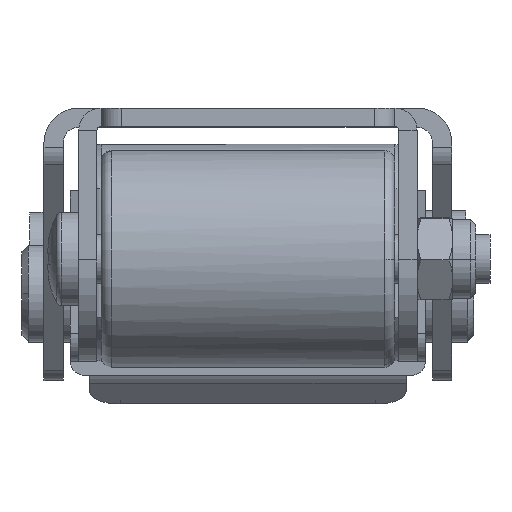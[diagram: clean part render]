
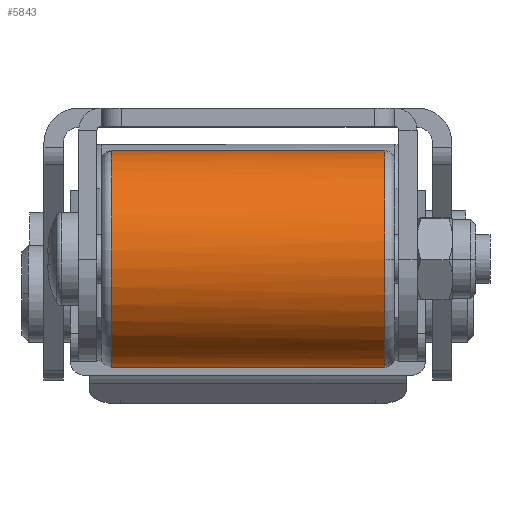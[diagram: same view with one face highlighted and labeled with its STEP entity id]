
A CAD part, left-side view. The second image highlights one B-rep face of the part: STEP entity #5843.
In plain terms, the highlighted cylindrical face has radius 10.704 mm (diameter 21.409 mm), a partial arc.
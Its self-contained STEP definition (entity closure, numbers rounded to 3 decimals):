
#62 = CARTESIAN_POINT ( 'NONE',  ( -1.901, 0.251, 22.135 ) ) ;
#229 = EDGE_CURVE ( 'NONE', #2815, #4397, #6040, .T. ) ;
#249 = CARTESIAN_POINT ( 'NONE',  ( 1.676, -13.243, 35.784 ) ) ;
#274 = DIRECTION ( 'NONE',  ( 0., 1., 0. ) ) ;
#301 = DIRECTION ( 'NONE',  ( 0., -1., 0. ) ) ;
#314 = CYLINDRICAL_SURFACE ( 'NONE', #4800, 10.704 ) ;
#373 = CIRCLE ( 'NONE', #5061, 10.704 ) ;
#439 = B_SPLINE_CURVE_WITH_KNOTS ( 'NONE', 3,
 ( #576, #1768, #4329, #7471 ),
 .UNSPECIFIED., .F., .F.,
 ( 4, 4 ),
 ( 0.002, 0.002 ),
 .UNSPECIFIED. ) ;
#478 = CARTESIAN_POINT ( 'NONE',  ( -1.974, -13.243, 39.915 ) ) ;
#576 = CARTESIAN_POINT ( 'NONE',  ( 1.676, 13.745, 35.784 ) ) ;
#588 = ORIENTED_EDGE ( 'NONE', *, *, #3832, .T. ) ;
#701 = EDGE_CURVE ( 'NONE', #2224, #2918, #4395, .T. ) ;
#858 = EDGE_CURVE ( 'NONE', #4235, #4397, #1805, .T. ) ;
#894 = CIRCLE ( 'NONE', #3620, 10.704 ) ;
#937 = DIRECTION ( 'NONE',  ( 1., 0., 0.004 ) ) ;
#1036 = DIRECTION ( 'NONE',  ( 0., -1., 0. ) ) ;
#1078 = CARTESIAN_POINT ( 'NONE',  ( -7.9, 13.744, 31. ) ) ;
#1203 = CARTESIAN_POINT ( 'NONE',  ( 1.676, 13.745, 35.784 ) ) ;
#1252 = DIRECTION ( 'NONE',  ( 0., -1., 0. ) ) ;
#1319 = CARTESIAN_POINT ( 'NONE',  ( -7.9, 13.745, 31. ) ) ;
#1397 = CARTESIAN_POINT ( 'NONE',  ( 1.73, -13.243, 26.325 ) ) ;
#1399 = CARTESIAN_POINT ( 'NONE',  ( -7.9, -13.243, 31. ) ) ;
#1490 = CARTESIAN_POINT ( 'NONE',  ( 1.676, -13.243, 35.784 ) ) ;
#1497 = CARTESIAN_POINT ( 'NONE',  ( -1.901, 13.744, 22.135 ) ) ;
#1537 = CARTESIAN_POINT ( 'NONE',  ( 1.737, -13.243, 26.34 ) ) ;
#1549 = CARTESIAN_POINT ( 'NONE',  ( -7.9, -13.243, 31. ) ) ;
#1615 = CARTESIAN_POINT ( 'NONE',  ( -7.9, -13.243, 31. ) ) ;
#1639 = CARTESIAN_POINT ( 'NONE',  ( 1.737, 13.744, 26.34 ) ) ;
#1768 = CARTESIAN_POINT ( 'NONE',  ( 1.683, 13.745, 35.769 ) ) ;
#1805 = B_SPLINE_CURVE_WITH_KNOTS ( 'NONE', 3,
 ( #1639, #4003, #2810, #6005 ),
 .UNSPECIFIED., .F., .F.,
 ( 4, 4 ),
 ( 0., 0. ),
 .UNSPECIFIED. ) ;
#1819 = DIRECTION ( 'NONE',  ( -1., 0., -0.004 ) ) ;
#1862 = CARTESIAN_POINT ( 'NONE',  ( 1.737, 13.744, 26.34 ) ) ;
#1868 = EDGE_CURVE ( 'NONE', #2815, #4846, #439, .T. ) ;
#1975 = CARTESIAN_POINT ( 'NONE',  ( 1.715, -13.243, 26.295 ) ) ;
#2170 = EDGE_CURVE ( 'NONE', #4235, #5347, #2998, .T. ) ;
#2179 = ORIENTED_EDGE ( 'NONE', *, *, #6665, .T. ) ;
#2224 = VERTEX_POINT ( 'NONE', #2775 ) ;
#2279 = ORIENTED_EDGE ( 'NONE', *, *, #229, .T. ) ;
#2412 = EDGE_CURVE ( 'NONE', #7472, #3670, #4858, .T. ) ;
#2418 = ORIENTED_EDGE ( 'NONE', *, *, #5317, .F. ) ;
#2775 = CARTESIAN_POINT ( 'NONE',  ( 1.698, -13.243, 35.739 ) ) ;
#2810 = CARTESIAN_POINT ( 'NONE',  ( 1.722, 13.745, 26.31 ) ) ;
#2815 = VERTEX_POINT ( 'NONE', #1203 ) ;
#2918 = VERTEX_POINT ( 'NONE', #1490 ) ;
#2945 = DIRECTION ( 'NONE',  ( 0., 1., 0. ) ) ;
#2998 = CIRCLE ( 'NONE', #6663, 10.704 ) ;
#3013 = CARTESIAN_POINT ( 'NONE',  ( 1.691, -13.243, 35.754 ) ) ;
#3226 = DIRECTION ( 'NONE',  ( -1., 0., -0.004 ) ) ;
#3431 = EDGE_LOOP ( 'NONE', ( #3926, #588, #7153, #4477, #2179, #7154, #4922, #6402, #2279, #6670, #3588, #2418, #7023 ) ) ;
#3588 = ORIENTED_EDGE ( 'NONE', *, *, #2170, .T. ) ;
#3620 = AXIS2_PLACEMENT_3D ( 'NONE', #1078, #2945, #6788 ) ;
#3650 = LINE ( 'NONE', #62, #4302 ) ;
#3670 = VERTEX_POINT ( 'NONE', #478 ) ;
#3766 = DIRECTION ( 'NONE',  ( 0., 1., 0. ) ) ;
#3832 = EDGE_CURVE ( 'NONE', #4261, #4443, #8004, .T. ) ;
#3920 = VECTOR ( 'NONE', #1252, 1000. ) ;
#3926 = ORIENTED_EDGE ( 'NONE', *, *, #6091, .F. ) ;
#4003 = CARTESIAN_POINT ( 'NONE',  ( 1.73, 13.744, 26.325 ) ) ;
#4076 = EDGE_CURVE ( 'NONE', #5759, #5914, #6976, .T. ) ;
#4106 = DIRECTION ( 'NONE',  ( 1., 0., 0.004 ) ) ;
#4137 = CIRCLE ( 'NONE', #4912, 10.704 ) ;
#4150 = CARTESIAN_POINT ( 'NONE',  ( -1.974, 13.744, 39.915 ) ) ;
#4235 = VERTEX_POINT ( 'NONE', #1862 ) ;
#4261 = VERTEX_POINT ( 'NONE', #4547 ) ;
#4302 = VECTOR ( 'NONE', #4885, 1000. ) ;
#4329 = CARTESIAN_POINT ( 'NONE',  ( 1.691, 13.744, 35.754 ) ) ;
#4395 = B_SPLINE_CURVE_WITH_KNOTS ( 'NONE', 3,
 ( #5547, #3013, #6333, #249 ),
 .UNSPECIFIED., .F., .F.,
 ( 4, 4 ),
 ( 0., 0. ),
 .UNSPECIFIED. ) ;
#4397 = VERTEX_POINT ( 'NONE', #5863 ) ;
#4443 = VERTEX_POINT ( 'NONE', #5288 ) ;
#4477 = ORIENTED_EDGE ( 'NONE', *, *, #701, .F. ) ;
#4547 = CARTESIAN_POINT ( 'NONE',  ( 1.715, -13.243, 26.295 ) ) ;
#4657 = DIRECTION ( 'NONE',  ( 1., 0., 0.004 ) ) ;
#4774 = DIRECTION ( 'NONE',  ( 0., -1., 0. ) ) ;
#4800 = AXIS2_PLACEMENT_3D ( 'NONE', #7824, #274, #4106 ) ;
#4846 = VERTEX_POINT ( 'NONE', #6158 ) ;
#4858 = LINE ( 'NONE', #6852, #3920 ) ;
#4885 = DIRECTION ( 'NONE',  ( 0., 1., 0. ) ) ;
#4912 = AXIS2_PLACEMENT_3D ( 'NONE', #1549, #4774, #937 ) ;
#4922 = ORIENTED_EDGE ( 'NONE', *, *, #7911, .T. ) ;
#5061 = AXIS2_PLACEMENT_3D ( 'NONE', #1399, #5681, #3226 ) ;
#5068 = CARTESIAN_POINT ( 'NONE',  ( 1.737, -13.243, 26.34 ) ) ;
#5252 = FACE_OUTER_BOUND ( 'NONE', #3431, .T. ) ;
#5288 = CARTESIAN_POINT ( 'NONE',  ( -18.604, -13.243, 30.956 ) ) ;
#5317 = EDGE_CURVE ( 'NONE', #5759, #5347, #3650, .T. ) ;
#5347 = VERTEX_POINT ( 'NONE', #1497 ) ;
#5404 = DIRECTION ( 'NONE',  ( 1., 0., 0.004 ) ) ;
#5547 = CARTESIAN_POINT ( 'NONE',  ( 1.698, -13.243, 35.739 ) ) ;
#5681 = DIRECTION ( 'NONE',  ( 0., 1., 0. ) ) ;
#5743 = CARTESIAN_POINT ( 'NONE',  ( -1.901, -13.243, 22.135 ) ) ;
#5759 = VERTEX_POINT ( 'NONE', #5743 ) ;
#5774 = CARTESIAN_POINT ( 'NONE',  ( 1.722, -13.243, 26.31 ) ) ;
#5843 = ADVANCED_FACE ( 'NONE', ( #5252 ), #314, .T. ) ;
#5863 = CARTESIAN_POINT ( 'NONE',  ( 1.715, 13.745, 26.295 ) ) ;
#5914 = VERTEX_POINT ( 'NONE', #1537 ) ;
#6005 = CARTESIAN_POINT ( 'NONE',  ( 1.715, 13.745, 26.295 ) ) ;
#6040 = CIRCLE ( 'NONE', #6808, 10.704 ) ;
#6091 = EDGE_CURVE ( 'NONE', #4261, #5914, #6798, .T. ) ;
#6158 = CARTESIAN_POINT ( 'NONE',  ( 1.698, 13.744, 35.739 ) ) ;
#6323 = AXIS2_PLACEMENT_3D ( 'NONE', #1615, #1036, #5404 ) ;
#6333 = CARTESIAN_POINT ( 'NONE',  ( 1.683, -13.243, 35.769 ) ) ;
#6402 = ORIENTED_EDGE ( 'NONE', *, *, #1868, .F. ) ;
#6663 = AXIS2_PLACEMENT_3D ( 'NONE', #6696, #7843, #4657 ) ;
#6665 = EDGE_CURVE ( 'NONE', #2224, #3670, #4137, .T. ) ;
#6670 = ORIENTED_EDGE ( 'NONE', *, *, #858, .F. ) ;
#6696 = CARTESIAN_POINT ( 'NONE',  ( -7.9, 13.744, 31. ) ) ;
#6788 = DIRECTION ( 'NONE',  ( 1., 0., 0.004 ) ) ;
#6798 = B_SPLINE_CURVE_WITH_KNOTS ( 'NONE', 3,
 ( #1975, #5774, #1397, #5068 ),
 .UNSPECIFIED., .F., .F.,
 ( 4, 4 ),
 ( 0.002, 0.002 ),
 .UNSPECIFIED. ) ;
#6808 = AXIS2_PLACEMENT_3D ( 'NONE', #1319, #301, #7128 ) ;
#6852 = CARTESIAN_POINT ( 'NONE',  ( -1.974, 0.251, 39.915 ) ) ;
#6976 = CIRCLE ( 'NONE', #6323, 10.704 ) ;
#7023 = ORIENTED_EDGE ( 'NONE', *, *, #4076, .T. ) ;
#7106 = AXIS2_PLACEMENT_3D ( 'NONE', #7980, #3766, #1819 ) ;
#7128 = DIRECTION ( 'NONE',  ( 1., 0., 0.004 ) ) ;
#7153 = ORIENTED_EDGE ( 'NONE', *, *, #7249, .T. ) ;
#7154 = ORIENTED_EDGE ( 'NONE', *, *, #2412, .F. ) ;
#7249 = EDGE_CURVE ( 'NONE', #4443, #2918, #373, .T. ) ;
#7471 = CARTESIAN_POINT ( 'NONE',  ( 1.698, 13.744, 35.739 ) ) ;
#7472 = VERTEX_POINT ( 'NONE', #4150 ) ;
#7824 = CARTESIAN_POINT ( 'NONE',  ( -7.9, -14.243, 31. ) ) ;
#7843 = DIRECTION ( 'NONE',  ( 0., 1., 0. ) ) ;
#7911 = EDGE_CURVE ( 'NONE', #7472, #4846, #894, .T. ) ;
#7980 = CARTESIAN_POINT ( 'NONE',  ( -7.9, -13.243, 31. ) ) ;
#8004 = CIRCLE ( 'NONE', #7106, 10.704 ) ;
